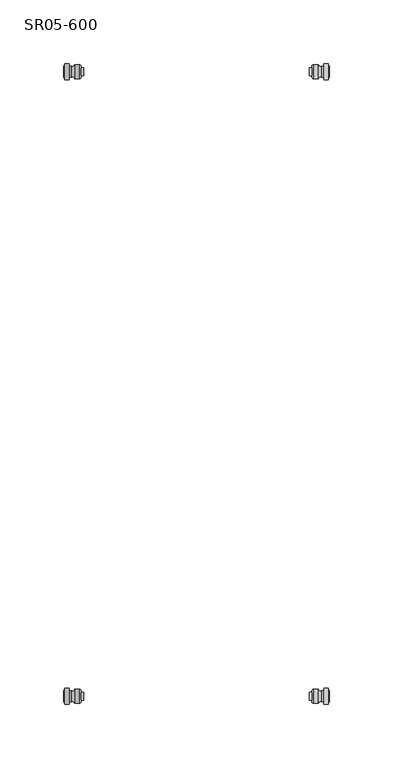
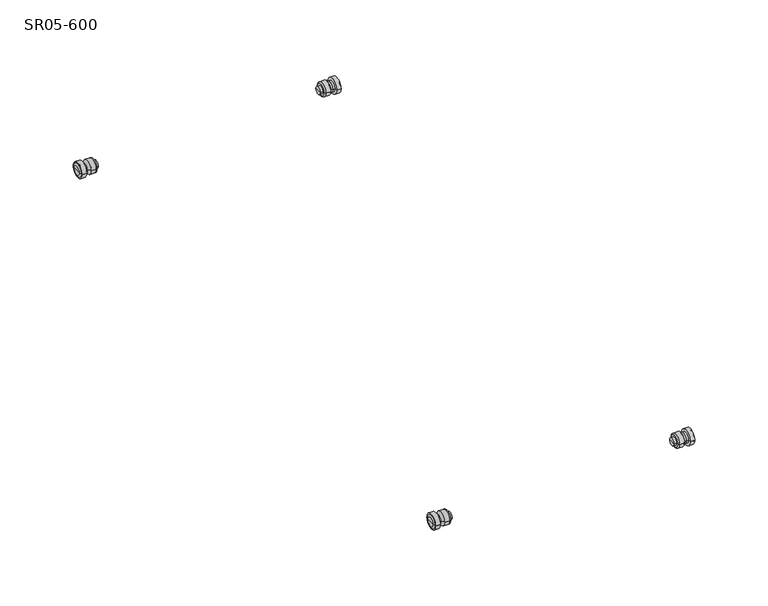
"""IFC4 building model written with IfcOpenShell, lengths in millimetres: proxy geometry, Уголки : SR05-600."""

from ifc_helpers import new_model, si_unit, point, frame, origin, place, context, project, spatial, circle_curve, ellipse_curve, trimmed, source, transform, mapped, element, save
from ifc_brep_helpers import plane_surface, cylinder_surface, revolved_surface, advanced_brep


def sr05_600_a44accf0(model_context):
    return source(origin(), model_context, "Body", "AdvancedBrep", [
        advanced_brep(
        [(104.3500066, -245.0, 24.0), (104.3500066, -248.4999948, 24.0), (104.3500066, -241.5000052, 24.0), (88.7499958, -242.0000014, 24.0), (88.7499958, -247.9999986, 24.0), (88.7499958, -245.0, 24.0), (90.7999933, -242.0000014, 24.0), (90.7999933, -247.9999986, 24.0), (90.7999933, -240.5000058, 24.0), (90.7999933, -249.4999942, 24.0), (91.7999994, -239.5000052, 24.0), (91.7999994, -250.4999948, 24.0), (95.7999994, -239.5000038, 24.0), (95.7999994, -250.4999962, 24.0), (97.9999959, -240.8266569, 24.0), (97.9999959, -249.1733431, 24.0), (100.0, -238.7499985, 24.0), (100.0, -251.2500015, 24.0), (100.0, -249.1733431, 24.0), (100.0, -240.8266569, 24.0), (103.4999996, -238.7499985, 24.0), (103.4999996, -251.2500015, 24.0), (103.4999996, -239.6218414, 24.0), (103.4999996, -250.3781586, 24.0)],
        [
            (0, 1),
            (1, 2, circle_curve(frame((104.3500066, -245.0, 24.0), z_axis=(1.0, 0.0, 0.0), x_axis=(0.0, -1.0, 0.0)), 3.4999948)),
            (2, 0),
            (2, 1, circle_curve(frame((104.3500066, -245.0, 24.0), z_axis=(1.0, 0.0, 0.0), x_axis=(0.0, -1.0, 0.0)), 3.4999948)),
            (3, 4, circle_curve(frame((88.7499958, -245.0, 24.0), z_axis=(-1.0, 0.0, 0.0), x_axis=(0.0, -1.0, 0.0)), 2.9999986)),
            (4, 5),
            (5, 3),
            (4, 3, circle_curve(frame((88.7499958, -245.0, 24.0), z_axis=(-1.0, 0.0, 0.0), x_axis=(0.0, -1.0, 0.0)), 2.9999986)),
            (6, 7, circle_curve(frame((90.7999933, -245.0, 24.0), z_axis=(-1.0, 0.0, 0.0), x_axis=(0.0, -1.0, 0.0)), 2.9999986)),
            (7, 4),
            (3, 6),
            (7, 6, circle_curve(frame((90.7999933, -245.0, 24.0), z_axis=(-1.0, 0.0, 0.0), x_axis=(0.0, -1.0, 0.0)), 2.9999986)),
            (8, 9, circle_curve(frame((90.7999933, -245.0, 24.0), z_axis=(-1.0, 0.0, 0.0), x_axis=(0.0, -1.0, 0.0)), 4.4999942)),
            (9, 7),
            (6, 8),
            (9, 8, circle_curve(frame((90.7999933, -245.0, 24.0), z_axis=(-1.0, 0.0, 0.0), x_axis=(0.0, -1.0, 0.0)), 4.4999942)),
            (10, 11, circle_curve(frame((91.7999994, -245.0, 24.0), z_axis=(-1.0, 0.0, 0.0), x_axis=(0.0, -1.0, 0.0)), 5.4999948)),
            (11, 9, circle_curve(frame((91.7999994, -249.4999948, 24.0), z_axis=(0.0, 0.0, -1.0), x_axis=(0.0, 1.0, 0.0)), 1.0)),
            (8, 10, circle_curve(frame((91.7999994, -240.5000052, 24.0), z_axis=(0.0, 0.0, -1.0), x_axis=(0.0, -1.0, 0.0)), 1.0)),
            (11, 10, circle_curve(frame((91.7999994, -245.0, 24.0), z_axis=(-1.0, 0.0, 0.0), x_axis=(0.0, -1.0, 0.0)), 5.4999948)),
            (12, 13, circle_curve(frame((95.7999994, -245.0, 24.0), z_axis=(-1.0, 0.0, 0.0), x_axis=(0.0, -1.0, 0.0)), 5.4999962)),
            (13, 11),
            (10, 12),
            (13, 12, circle_curve(frame((95.7999994, -245.0, 24.0), z_axis=(-1.0, 0.0, 0.0), x_axis=(0.0, -1.0, 0.0)), 5.4999962)),
            (14, 15, circle_curve(frame((97.9999959, -245.0, 24.0), z_axis=(-1.0, 0.0, 0.0), x_axis=(0.0, -1.0, 0.0)), 4.1733431)),
            (15, 13, circle_curve(frame((97.2999994, -250.4999948, 24.0), z_axis=(0.0, 0.0, 1.0), x_axis=(0.0, 1.0, 0.0)), 1.5)),
            (12, 14, circle_curve(frame((97.2999994, -239.5000052, 24.0), z_axis=(0.0, 0.0, 1.0), x_axis=(0.0, -1.0, 0.0)), 1.5)),
            (15, 14, circle_curve(frame((97.9999959, -245.0, 24.0), z_axis=(-1.0, 0.0, 0.0), x_axis=(0.0, -1.0, 0.0)), 4.1733431)),
            (16, 17, circle_curve(frame((100.0, -245.0, 24.0), z_axis=(-1.0, 0.0, 0.0), x_axis=(0.0, -1.0, 0.0)), 6.2500015)),
            (17, 18),
            (18, 19, circle_curve(frame((100.0, -245.0, 24.0), z_axis=(1.0, 0.0, 0.0), x_axis=(0.0, -1.0, 0.0)), 4.1733431)),
            (19, 16),
            (17, 16, circle_curve(frame((100.0, -245.0, 24.0), z_axis=(-1.0, 0.0, 0.0), x_axis=(0.0, -1.0, 0.0)), 6.2500015)),
            (19, 18, circle_curve(frame((100.0, -245.0, 24.0), z_axis=(1.0, 0.0, 0.0), x_axis=(0.0, -1.0, 0.0)), 4.1733431)),
            (20, 21, circle_curve(frame((103.4999996, -245.0, 24.0), z_axis=(-1.0, 0.0, 0.0), x_axis=(0.0, -1.0, 0.0)), 6.2500015)),
            (21, 17),
            (16, 20),
            (21, 20, circle_curve(frame((103.4999996, -245.0, 24.0), z_axis=(-1.0, 0.0, 0.0), x_axis=(0.0, -1.0, 0.0)), 6.2500015)),
            (22, 23, circle_curve(frame((103.4999996, -245.0, 24.0), z_axis=(-1.0, 0.0, 0.0), x_axis=(0.0, -1.0, 0.0)), 5.3781586)),
            (23, 21),
            (20, 22),
            (23, 22, circle_curve(frame((103.4999996, -245.0, 24.0), z_axis=(-1.0, 0.0, 0.0), x_axis=(0.0, -1.0, 0.0)), 5.3781586)),
            (1, 23, circle_curve(frame((101.8499994, -248.4999948, 24.0), z_axis=(0.0, 0.0, -1.0), x_axis=(0.0, 1.0, 0.0)), 2.5)),
            (22, 2, circle_curve(frame((101.8499994, -241.5000052, 24.0), z_axis=(0.0, 0.0, -1.0), x_axis=(0.0, -1.0, 0.0)), 2.5)),
            (18, 15),
            (14, 19),
        ],
        [
            plane_surface(frame((104.3500066, -245.0, 24.0), z_axis=(1.0, 0.0, 0.0), x_axis=(0.0, -1.0, 0.0))),
            plane_surface(frame((88.7499958, -245.0, 24.0), z_axis=(-1.0, 0.0, 0.0), x_axis=(0.0, -1.0, 0.0))),
            cylinder_surface(frame((-1900.0, -245.0, 24.0), z_axis=(1.0, 0.0, 0.0), x_axis=(0.0, -1.0, 0.0)), 2.9999986),
            plane_surface(frame((90.7999933, -245.0, 24.0), z_axis=(-1.0, 0.0, 0.0), x_axis=(0.0, -1.0, 0.0))),
            revolved_surface(trimmed(ellipse_curve(frame((91.7999994, -249.4999948, 24.0), z_axis=(0.0, 0.0, 1.0), x_axis=(0.0, 1.0, 0.0)), 1.0, 1.0), [point((90.7999994, -249.4999948, 24.0))], [point((91.7999994, -250.4999948, 24.0))], True, "CARTESIAN"), (-1900.0, -245.0, 24.0), (1.0, 0.0, 0.0)),
            cylinder_surface(frame((-1900.0, -245.0, 24.0), z_axis=(1.0, 0.0, 0.0), x_axis=(0.0, -1.0, 0.0)), 5.4999962),
            revolved_surface(trimmed(ellipse_curve(frame((97.2999994, -250.4999948, 24.0), z_axis=(0.0, 0.0, -1.0), x_axis=(0.0, 1.0, 0.0)), 1.5, 1.5), [point((95.7999994, -250.4999962, 24.0))], [point((97.9999959, -249.1733431, 24.0))], True, "CARTESIAN"), (-1900.0, -245.0, 24.0), (1.0, 0.0, 0.0)),
            plane_surface(frame((100.0, -245.0, 24.0), z_axis=(-1.0, 0.0, 0.0), x_axis=(0.0, -1.0, 0.0))),
            cylinder_surface(frame((-1900.0, -245.0, 24.0), z_axis=(1.0, 0.0, 0.0), x_axis=(0.0, -1.0, 0.0)), 6.2500015),
            plane_surface(frame((103.4999996, -245.0, 24.0), z_axis=(1.0, 0.0, 0.0), x_axis=(0.0, -1.0, 0.0))),
            revolved_surface(trimmed(ellipse_curve(frame((101.8499994, -248.4999948, 24.0), z_axis=(0.0, 0.0, 1.0), x_axis=(0.0, 1.0, 0.0)), 2.5, 2.5), [point((103.4999996, -250.3781586, 24.0))], [point((104.3499994, -248.4999948, 24.0))], True, "CARTESIAN"), (-1900.0, -245.0, 24.0), (1.0, 0.0, 0.0)),
            cylinder_surface(frame((-1900.0, -245.0, 24.0), z_axis=(1.0, 0.0, 0.0), x_axis=(0.0, -1.0, 0.0)), 4.1733431),
        ],
        [
            (0, [[1, 2, 3]]),
            (0, [[-3, 4, -1]]),
            (1, [[5, 6, 7]]),
            (1, [[8, -7, -6]]),
            (2, [[9, 10, -5, 11]]),
            (2, [[12, -11, -8, -10]]),
            (3, [[13, 14, -9, 15]]),
            (3, [[16, -15, -12, -14]]),
            (4, [[17, 18, -13, 19]]),
            (4, [[20, -19, -16, -18]]),
            (5, [[21, 22, -17, 23]]),
            (5, [[24, -23, -20, -22]]),
            (6, [[25, 26, -21, 27]]),
            (6, [[28, -27, -24, -26]]),
            (7, [[29, 30, 31, 32]]),
            (7, [[33, -32, 34, -30]]),
            (8, [[35, 36, -29, 37]]),
            (8, [[38, -37, -33, -36]]),
            (9, [[39, 40, -35, 41]]),
            (9, [[42, -41, -38, -40]]),
            (10, [[-2, 43, -39, 44]]),
            (10, [[-4, -44, -42, -43]]),
            (11, [[-31, 45, -25, 46]]),
            (11, [[-34, -46, -28, -45]]),
        ],
    ),
        advanced_brep(
        [(104.3500066, 245.0, 24.0), (104.3500066, 241.5000052, 24.0), (104.3500066, 248.4999948, 24.0), (88.7499958, 247.9999986, 24.0), (88.7499958, 242.0000014, 24.0), (88.7499958, 245.0, 24.0), (90.7999933, 247.9999986, 24.0), (90.7999933, 242.0000014, 24.0), (90.7999933, 249.4999942, 24.0), (90.7999933, 240.5000058, 24.0), (91.7999994, 250.4999948, 24.0), (91.7999994, 239.5000052, 24.0), (95.7999994, 250.4999962, 24.0), (95.7999994, 239.5000038, 24.0), (97.9999959, 249.1733431, 24.0), (97.9999959, 240.8266569, 24.0), (100.0, 251.2500015, 24.0), (100.0, 238.7499985, 24.0), (100.0, 240.8266569, 24.0), (100.0, 249.1733431, 24.0), (103.4999996, 251.2500015, 24.0), (103.4999996, 238.7499985, 24.0), (103.4999996, 250.3781586, 24.0), (103.4999996, 239.6218414, 24.0)],
        [
            (0, 1),
            (1, 2, circle_curve(frame((104.3500066, 245.0, 24.0), z_axis=(1.0, 0.0, 0.0), x_axis=(0.0, -1.0, 0.0)), 3.4999948)),
            (2, 0),
            (2, 1, circle_curve(frame((104.3500066, 245.0, 24.0), z_axis=(1.0, 0.0, 0.0), x_axis=(0.0, -1.0, 0.0)), 3.4999948)),
            (3, 4, circle_curve(frame((88.7499958, 245.0, 24.0), z_axis=(-1.0, 0.0, 0.0), x_axis=(0.0, -1.0, 0.0)), 2.9999986)),
            (4, 5),
            (5, 3),
            (4, 3, circle_curve(frame((88.7499958, 245.0, 24.0), z_axis=(-1.0, 0.0, 0.0), x_axis=(0.0, -1.0, 0.0)), 2.9999986)),
            (6, 7, circle_curve(frame((90.7999933, 245.0, 24.0), z_axis=(-1.0, 0.0, 0.0), x_axis=(0.0, -1.0, 0.0)), 2.9999986)),
            (7, 4),
            (3, 6),
            (7, 6, circle_curve(frame((90.7999933, 245.0, 24.0), z_axis=(-1.0, 0.0, 0.0), x_axis=(0.0, -1.0, 0.0)), 2.9999986)),
            (8, 9, circle_curve(frame((90.7999933, 245.0, 24.0), z_axis=(-1.0, 0.0, 0.0), x_axis=(0.0, -1.0, 0.0)), 4.4999942)),
            (9, 7),
            (6, 8),
            (9, 8, circle_curve(frame((90.7999933, 245.0, 24.0), z_axis=(-1.0, 0.0, 0.0), x_axis=(0.0, -1.0, 0.0)), 4.4999942)),
            (10, 11, circle_curve(frame((91.7999994, 245.0, 24.0), z_axis=(-1.0, 0.0, 0.0), x_axis=(0.0, -1.0, 0.0)), 5.4999948)),
            (11, 9, circle_curve(frame((91.7999994, 240.5000052, 24.0), z_axis=(0.0, 0.0, -1.0), x_axis=(0.0, 1.0, 0.0)), 1.0)),
            (8, 10, circle_curve(frame((91.7999994, 249.4999948, 24.0), z_axis=(0.0, 0.0, -1.0), x_axis=(0.0, -1.0, 0.0)), 1.0)),
            (11, 10, circle_curve(frame((91.7999994, 245.0, 24.0), z_axis=(-1.0, 0.0, 0.0), x_axis=(0.0, -1.0, 0.0)), 5.4999948)),
            (12, 13, circle_curve(frame((95.7999994, 245.0, 24.0), z_axis=(-1.0, 0.0, 0.0), x_axis=(0.0, -1.0, 0.0)), 5.4999962)),
            (13, 11),
            (10, 12),
            (13, 12, circle_curve(frame((95.7999994, 245.0, 24.0), z_axis=(-1.0, 0.0, 0.0), x_axis=(0.0, -1.0, 0.0)), 5.4999962)),
            (14, 15, circle_curve(frame((97.9999959, 245.0, 24.0), z_axis=(-1.0, 0.0, 0.0), x_axis=(0.0, -1.0, 0.0)), 4.1733431)),
            (15, 13, circle_curve(frame((97.2999994, 239.5000052, 24.0), z_axis=(0.0, 0.0, 1.0), x_axis=(0.0, 1.0, 0.0)), 1.5)),
            (12, 14, circle_curve(frame((97.2999994, 250.4999948, 24.0), z_axis=(0.0, 0.0, 1.0), x_axis=(0.0, -1.0, 0.0)), 1.5)),
            (15, 14, circle_curve(frame((97.9999959, 245.0, 24.0), z_axis=(-1.0, 0.0, 0.0), x_axis=(0.0, -1.0, 0.0)), 4.1733431)),
            (16, 17, circle_curve(frame((100.0, 245.0, 24.0), z_axis=(-1.0, 0.0, 0.0), x_axis=(0.0, -1.0, 0.0)), 6.2500015)),
            (17, 18),
            (18, 19, circle_curve(frame((100.0, 245.0, 24.0), z_axis=(1.0, 0.0, 0.0), x_axis=(0.0, -1.0, 0.0)), 4.1733431)),
            (19, 16),
            (17, 16, circle_curve(frame((100.0, 245.0, 24.0), z_axis=(-1.0, 0.0, 0.0), x_axis=(0.0, -1.0, 0.0)), 6.2500015)),
            (19, 18, circle_curve(frame((100.0, 245.0, 24.0), z_axis=(1.0, 0.0, 0.0), x_axis=(0.0, -1.0, 0.0)), 4.1733431)),
            (20, 21, circle_curve(frame((103.4999996, 245.0, 24.0), z_axis=(-1.0, 0.0, 0.0), x_axis=(0.0, -1.0, 0.0)), 6.2500015)),
            (21, 17),
            (16, 20),
            (21, 20, circle_curve(frame((103.4999996, 245.0, 24.0), z_axis=(-1.0, 0.0, 0.0), x_axis=(0.0, -1.0, 0.0)), 6.2500015)),
            (22, 23, circle_curve(frame((103.4999996, 245.0, 24.0), z_axis=(-1.0, 0.0, 0.0), x_axis=(0.0, -1.0, 0.0)), 5.3781586)),
            (23, 21),
            (20, 22),
            (23, 22, circle_curve(frame((103.4999996, 245.0, 24.0), z_axis=(-1.0, 0.0, 0.0), x_axis=(0.0, -1.0, 0.0)), 5.3781586)),
            (1, 23, circle_curve(frame((101.8499994, 241.5000052, 24.0), z_axis=(0.0, 0.0, -1.0), x_axis=(0.0, 1.0, 0.0)), 2.5)),
            (22, 2, circle_curve(frame((101.8499994, 248.4999948, 24.0), z_axis=(0.0, 0.0, -1.0), x_axis=(0.0, -1.0, 0.0)), 2.5)),
            (18, 15),
            (14, 19),
        ],
        [
            plane_surface(frame((104.3500066, 245.0, 24.0), z_axis=(1.0, 0.0, 0.0), x_axis=(0.0, -1.0, 0.0))),
            plane_surface(frame((88.7499958, 245.0, 24.0), z_axis=(-1.0, 0.0, 0.0), x_axis=(0.0, -1.0, 0.0))),
            cylinder_surface(frame((-1900.0, 245.0, 24.0), z_axis=(1.0, 0.0, 0.0), x_axis=(0.0, -1.0, 0.0)), 2.9999986),
            plane_surface(frame((90.7999933, 245.0, 24.0), z_axis=(-1.0, 0.0, 0.0), x_axis=(0.0, -1.0, 0.0))),
            revolved_surface(trimmed(ellipse_curve(frame((91.7999994, 240.5000052, 24.0), z_axis=(0.0, 0.0, 1.0), x_axis=(0.0, 1.0, 0.0)), 1.0, 1.0), [point((90.7999994, 240.5000052, 24.0))], [point((91.7999994, 239.5000052, 24.0))], True, "CARTESIAN"), (-1900.0, 245.0, 24.0), (1.0, 0.0, 0.0)),
            cylinder_surface(frame((-1900.0, 245.0, 24.0), z_axis=(1.0, 0.0, 0.0), x_axis=(0.0, -1.0, 0.0)), 5.4999962),
            revolved_surface(trimmed(ellipse_curve(frame((97.2999994, 239.5000052, 24.0), z_axis=(0.0, 0.0, -1.0), x_axis=(0.0, 1.0, 0.0)), 1.5, 1.5), [point((95.7999994, 239.5000038, 24.0))], [point((97.9999959, 240.8266569, 24.0))], True, "CARTESIAN"), (-1900.0, 245.0, 24.0), (1.0, 0.0, 0.0)),
            plane_surface(frame((100.0, 245.0, 24.0), z_axis=(-1.0, 0.0, 0.0), x_axis=(0.0, -1.0, 0.0))),
            cylinder_surface(frame((-1900.0, 245.0, 24.0), z_axis=(1.0, 0.0, 0.0), x_axis=(0.0, -1.0, 0.0)), 6.2500015),
            plane_surface(frame((103.4999996, 245.0, 24.0), z_axis=(1.0, 0.0, 0.0), x_axis=(0.0, -1.0, 0.0))),
            revolved_surface(trimmed(ellipse_curve(frame((101.8499994, 241.5000052, 24.0), z_axis=(0.0, 0.0, 1.0), x_axis=(0.0, 1.0, 0.0)), 2.5, 2.5), [point((103.4999996, 239.6218414, 24.0))], [point((104.3499994, 241.5000052, 24.0))], True, "CARTESIAN"), (-1900.0, 245.0, 24.0), (1.0, 0.0, 0.0)),
            cylinder_surface(frame((-1900.0, 245.0, 24.0), z_axis=(1.0, 0.0, 0.0), x_axis=(0.0, -1.0, 0.0)), 4.1733431),
        ],
        [
            (0, [[1, 2, 3]]),
            (0, [[-3, 4, -1]]),
            (1, [[5, 6, 7]]),
            (1, [[8, -7, -6]]),
            (2, [[9, 10, -5, 11]]),
            (2, [[12, -11, -8, -10]]),
            (3, [[13, 14, -9, 15]]),
            (3, [[16, -15, -12, -14]]),
            (4, [[17, 18, -13, 19]]),
            (4, [[20, -19, -16, -18]]),
            (5, [[21, 22, -17, 23]]),
            (5, [[24, -23, -20, -22]]),
            (6, [[25, 26, -21, 27]]),
            (6, [[28, -27, -24, -26]]),
            (7, [[29, 30, 31, 32]]),
            (7, [[33, -32, 34, -30]]),
            (8, [[35, 36, -29, 37]]),
            (8, [[38, -37, -33, -36]]),
            (9, [[39, 40, -35, 41]]),
            (9, [[42, -41, -38, -40]]),
            (10, [[-2, 43, -39, 44]]),
            (10, [[-4, -44, -42, -43]]),
            (11, [[-31, 45, -25, 46]]),
            (11, [[-34, -46, -28, -45]]),
        ],
    ),
        advanced_brep(
        [(-104.3500066, 245.0, 24.0), (-104.3500066, 248.4999948, 24.0), (-104.3500066, 241.5000052, 24.0), (-88.7499958, 242.0000014, 24.0), (-88.7499958, 247.9999986, 24.0), (-88.7499958, 245.0, 24.0), (-90.7999933, 242.0000014, 24.0), (-90.7999933, 247.9999986, 24.0), (-90.7999933, 240.5000058, 24.0), (-90.7999933, 249.4999942, 24.0), (-91.7999994, 239.5000052, 24.0), (-91.7999994, 250.4999948, 24.0), (-95.7999994, 239.5000038, 24.0), (-95.7999994, 250.4999962, 24.0), (-97.9999959, 240.8266569, 24.0), (-97.9999959, 249.1733431, 24.0), (-100.0, 238.7499985, 24.0), (-100.0, 251.2500015, 24.0), (-100.0, 249.1733431, 24.0), (-100.0, 240.8266569, 24.0), (-103.4999996, 238.7499985, 24.0), (-103.4999996, 251.2500015, 24.0), (-103.4999996, 239.6218414, 24.0), (-103.4999996, 250.3781586, 24.0)],
        [
            (0, 1),
            (1, 2, circle_curve(frame((-104.3500066, 245.0, 24.0), z_axis=(-1.0, 0.0, 0.0), x_axis=(0.0, 1.0, 0.0)), 3.4999948)),
            (2, 0),
            (2, 1, circle_curve(frame((-104.3500066, 245.0, 24.0), z_axis=(-1.0, 0.0, 0.0), x_axis=(0.0, 1.0, 0.0)), 3.4999948)),
            (3, 4, circle_curve(frame((-88.7499958, 245.0, 24.0), z_axis=(1.0, 0.0, 0.0), x_axis=(0.0, 1.0, 0.0)), 2.9999986)),
            (4, 5),
            (5, 3),
            (4, 3, circle_curve(frame((-88.7499958, 245.0, 24.0), z_axis=(1.0, 0.0, 0.0), x_axis=(0.0, 1.0, 0.0)), 2.9999986)),
            (6, 7, circle_curve(frame((-90.7999933, 245.0, 24.0), z_axis=(1.0, 0.0, 0.0), x_axis=(0.0, 1.0, 0.0)), 2.9999986)),
            (7, 4),
            (3, 6),
            (7, 6, circle_curve(frame((-90.7999933, 245.0, 24.0), z_axis=(1.0, 0.0, 0.0), x_axis=(0.0, 1.0, 0.0)), 2.9999986)),
            (8, 9, circle_curve(frame((-90.7999933, 245.0, 24.0), z_axis=(1.0, 0.0, 0.0), x_axis=(0.0, 1.0, 0.0)), 4.4999942)),
            (9, 7),
            (6, 8),
            (9, 8, circle_curve(frame((-90.7999933, 245.0, 24.0), z_axis=(1.0, 0.0, 0.0), x_axis=(0.0, 1.0, 0.0)), 4.4999942)),
            (10, 11, circle_curve(frame((-91.7999994, 245.0, 24.0), z_axis=(1.0, 0.0, 0.0), x_axis=(0.0, 1.0, 0.0)), 5.4999948)),
            (11, 9, circle_curve(frame((-91.7999994, 249.4999948, 24.0), z_axis=(0.0, 0.0, -1.0), x_axis=(0.0, -1.0, 0.0)), 1.0)),
            (8, 10, circle_curve(frame((-91.7999994, 240.5000052, 24.0), z_axis=(0.0, 0.0, -1.0), x_axis=(0.0, 1.0, 0.0)), 1.0)),
            (11, 10, circle_curve(frame((-91.7999994, 245.0, 24.0), z_axis=(1.0, 0.0, 0.0), x_axis=(0.0, 1.0, 0.0)), 5.4999948)),
            (12, 13, circle_curve(frame((-95.7999994, 245.0, 24.0), z_axis=(1.0, 0.0, 0.0), x_axis=(0.0, 1.0, 0.0)), 5.4999962)),
            (13, 11),
            (10, 12),
            (13, 12, circle_curve(frame((-95.7999994, 245.0, 24.0), z_axis=(1.0, 0.0, 0.0), x_axis=(0.0, 1.0, 0.0)), 5.4999962)),
            (14, 15, circle_curve(frame((-97.9999959, 245.0, 24.0), z_axis=(1.0, 0.0, 0.0), x_axis=(0.0, 1.0, 0.0)), 4.1733431)),
            (15, 13, circle_curve(frame((-97.2999994, 250.4999948, 24.0), z_axis=(0.0, 0.0, 1.0), x_axis=(0.0, -1.0, 0.0)), 1.5)),
            (12, 14, circle_curve(frame((-97.2999994, 239.5000052, 24.0), z_axis=(0.0, 0.0, 1.0), x_axis=(0.0, 1.0, 0.0)), 1.5)),
            (15, 14, circle_curve(frame((-97.9999959, 245.0, 24.0), z_axis=(1.0, 0.0, 0.0), x_axis=(0.0, 1.0, 0.0)), 4.1733431)),
            (16, 17, circle_curve(frame((-100.0, 245.0, 24.0), z_axis=(1.0, 0.0, 0.0), x_axis=(0.0, 1.0, 0.0)), 6.2500015)),
            (17, 18),
            (18, 19, circle_curve(frame((-100.0, 245.0, 24.0), z_axis=(-1.0, 0.0, 0.0), x_axis=(0.0, 1.0, 0.0)), 4.1733431)),
            (19, 16),
            (17, 16, circle_curve(frame((-100.0, 245.0, 24.0), z_axis=(1.0, 0.0, 0.0), x_axis=(0.0, 1.0, 0.0)), 6.2500015)),
            (19, 18, circle_curve(frame((-100.0, 245.0, 24.0), z_axis=(-1.0, 0.0, 0.0), x_axis=(0.0, 1.0, 0.0)), 4.1733431)),
            (20, 21, circle_curve(frame((-103.4999996, 245.0, 24.0), z_axis=(1.0, 0.0, 0.0), x_axis=(0.0, 1.0, 0.0)), 6.2500015)),
            (21, 17),
            (16, 20),
            (21, 20, circle_curve(frame((-103.4999996, 245.0, 24.0), z_axis=(1.0, 0.0, 0.0), x_axis=(0.0, 1.0, 0.0)), 6.2500015)),
            (22, 23, circle_curve(frame((-103.4999996, 245.0, 24.0), z_axis=(1.0, 0.0, 0.0), x_axis=(0.0, 1.0, 0.0)), 5.3781586)),
            (23, 21),
            (20, 22),
            (23, 22, circle_curve(frame((-103.4999996, 245.0, 24.0), z_axis=(1.0, 0.0, 0.0), x_axis=(0.0, 1.0, 0.0)), 5.3781586)),
            (1, 23, circle_curve(frame((-101.8499994, 248.4999948, 24.0), z_axis=(0.0, 0.0, -1.0), x_axis=(0.0, -1.0, 0.0)), 2.5)),
            (22, 2, circle_curve(frame((-101.8499994, 241.5000052, 24.0), z_axis=(0.0, 0.0, -1.0), x_axis=(0.0, 1.0, 0.0)), 2.5)),
            (18, 15),
            (14, 19),
        ],
        [
            plane_surface(frame((-104.3500066, 245.0, 24.0), z_axis=(-1.0, 0.0, 0.0), x_axis=(0.0, 1.0, 0.0))),
            plane_surface(frame((-88.7499958, 245.0, 24.0), z_axis=(1.0, 0.0, 0.0), x_axis=(0.0, 1.0, 0.0))),
            cylinder_surface(frame((1900.0, 245.0, 24.0), z_axis=(-1.0, 0.0, 0.0), x_axis=(0.0, 1.0, 0.0)), 2.9999986),
            plane_surface(frame((-90.7999933, 245.0, 24.0), z_axis=(1.0, 0.0, 0.0), x_axis=(0.0, 1.0, 0.0))),
            revolved_surface(trimmed(ellipse_curve(frame((-91.7999994, 249.4999948, 24.0), z_axis=(0.0, 0.0, 1.0), x_axis=(0.0, -1.0, 0.0)), 1.0, 1.0), [point((-90.7999994, 249.4999948, 24.0))], [point((-91.7999994, 250.4999948, 24.0))], True, "CARTESIAN"), (1900.0, 245.0, 24.0), (-1.0, 0.0, 0.0)),
            cylinder_surface(frame((1900.0, 245.0, 24.0), z_axis=(-1.0, 0.0, 0.0), x_axis=(0.0, 1.0, 0.0)), 5.4999962),
            revolved_surface(trimmed(ellipse_curve(frame((-97.2999994, 250.4999948, 24.0), z_axis=(0.0, 0.0, -1.0), x_axis=(0.0, -1.0, 0.0)), 1.5, 1.5), [point((-95.7999994, 250.4999962, 24.0))], [point((-97.9999959, 249.1733431, 24.0))], True, "CARTESIAN"), (1900.0, 245.0, 24.0), (-1.0, 0.0, 0.0)),
            plane_surface(frame((-100.0, 245.0, 24.0), z_axis=(1.0, 0.0, 0.0), x_axis=(0.0, 1.0, 0.0))),
            cylinder_surface(frame((1900.0, 245.0, 24.0), z_axis=(-1.0, 0.0, 0.0), x_axis=(0.0, 1.0, 0.0)), 6.2500015),
            plane_surface(frame((-103.4999996, 245.0, 24.0), z_axis=(-1.0, 0.0, 0.0), x_axis=(0.0, 1.0, 0.0))),
            revolved_surface(trimmed(ellipse_curve(frame((-101.8499994, 248.4999948, 24.0), z_axis=(0.0, 0.0, 1.0), x_axis=(0.0, -1.0, 0.0)), 2.5, 2.5), [point((-103.4999996, 250.3781586, 24.0))], [point((-104.3499994, 248.4999948, 24.0))], True, "CARTESIAN"), (1900.0, 245.0, 24.0), (-1.0, 0.0, 0.0)),
            cylinder_surface(frame((1900.0, 245.0, 24.0), z_axis=(-1.0, 0.0, 0.0), x_axis=(0.0, 1.0, 0.0)), 4.1733431),
        ],
        [
            (0, [[1, 2, 3]]),
            (0, [[-3, 4, -1]]),
            (1, [[5, 6, 7]]),
            (1, [[8, -7, -6]]),
            (2, [[9, 10, -5, 11]]),
            (2, [[12, -11, -8, -10]]),
            (3, [[13, 14, -9, 15]]),
            (3, [[16, -15, -12, -14]]),
            (4, [[17, 18, -13, 19]]),
            (4, [[20, -19, -16, -18]]),
            (5, [[21, 22, -17, 23]]),
            (5, [[24, -23, -20, -22]]),
            (6, [[25, 26, -21, 27]]),
            (6, [[28, -27, -24, -26]]),
            (7, [[29, 30, 31, 32]]),
            (7, [[33, -32, 34, -30]]),
            (8, [[35, 36, -29, 37]]),
            (8, [[38, -37, -33, -36]]),
            (9, [[39, 40, -35, 41]]),
            (9, [[42, -41, -38, -40]]),
            (10, [[-2, 43, -39, 44]]),
            (10, [[-4, -44, -42, -43]]),
            (11, [[-31, 45, -25, 46]]),
            (11, [[-34, -46, -28, -45]]),
        ],
    ),
        advanced_brep(
        [(-104.3500066, -245.0, 24.0), (-104.3500066, -241.5000052, 24.0), (-104.3500066, -248.4999948, 24.0), (-88.7499958, -247.9999986, 24.0), (-88.7499958, -242.0000014, 24.0), (-88.7499958, -245.0, 24.0), (-90.7999933, -247.9999986, 24.0), (-90.7999933, -242.0000014, 24.0), (-90.7999933, -249.4999942, 24.0), (-90.7999933, -240.5000058, 24.0), (-91.7999994, -250.4999948, 24.0), (-91.7999994, -239.5000052, 24.0), (-95.7999994, -250.4999962, 24.0), (-95.7999994, -239.5000038, 24.0), (-97.9999959, -249.1733431, 24.0), (-97.9999959, -240.8266569, 24.0), (-100.0, -251.2500015, 24.0), (-100.0, -238.7499985, 24.0), (-100.0, -240.8266569, 24.0), (-100.0, -249.1733431, 24.0), (-103.4999996, -251.2500015, 24.0), (-103.4999996, -238.7499985, 24.0), (-103.4999996, -250.3781586, 24.0), (-103.4999996, -239.6218414, 24.0)],
        [
            (0, 1),
            (1, 2, circle_curve(frame((-104.3500066, -245.0, 24.0), z_axis=(-1.0, 0.0, 0.0), x_axis=(0.0, 1.0000000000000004, 0.0)), 3.4999948)),
            (2, 0),
            (2, 1, circle_curve(frame((-104.3500066, -245.0, 24.0), z_axis=(-1.0, 0.0, 0.0), x_axis=(0.0, 1.0000000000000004, 0.0)), 3.4999948)),
            (3, 4, circle_curve(frame((-88.7499958, -245.0, 24.0), z_axis=(1.0, 0.0, 0.0), x_axis=(0.0, 1.0000000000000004, 0.0)), 2.9999986)),
            (4, 5),
            (5, 3),
            (4, 3, circle_curve(frame((-88.7499958, -245.0, 24.0), z_axis=(1.0, 0.0, 0.0), x_axis=(0.0, 1.0000000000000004, 0.0)), 2.9999986)),
            (6, 7, circle_curve(frame((-90.7999933, -245.0, 24.0), z_axis=(1.0, 0.0, 0.0), x_axis=(0.0, 1.0000000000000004, 0.0)), 2.9999986)),
            (7, 4),
            (3, 6),
            (7, 6, circle_curve(frame((-90.7999933, -245.0, 24.0), z_axis=(1.0, 0.0, 0.0), x_axis=(0.0, 1.0000000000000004, 0.0)), 2.9999986)),
            (8, 9, circle_curve(frame((-90.7999933, -245.0, 24.0), z_axis=(1.0, 0.0, 0.0), x_axis=(0.0, 1.0000000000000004, 0.0)), 4.4999942)),
            (9, 7),
            (6, 8),
            (9, 8, circle_curve(frame((-90.7999933, -245.0, 24.0), z_axis=(1.0, 0.0, 0.0), x_axis=(0.0, 1.0000000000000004, 0.0)), 4.4999942)),
            (10, 11, circle_curve(frame((-91.7999994, -245.0, 24.0), z_axis=(1.0, 0.0, 0.0), x_axis=(0.0, 1.0000000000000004, 0.0)), 5.4999948)),
            (11, 9, circle_curve(frame((-91.7999994, -240.5000052, 24.0), z_axis=(0.0, 0.0, -1.0), x_axis=(0.0, -1.0000000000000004, 0.0)), 1.0)),
            (8, 10, circle_curve(frame((-91.7999994, -249.4999948, 24.0), z_axis=(0.0, 0.0, -1.0), x_axis=(0.0, 1.0000000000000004, 0.0)), 1.0)),
            (11, 10, circle_curve(frame((-91.7999994, -245.0, 24.0), z_axis=(1.0, 0.0, 0.0), x_axis=(0.0, 1.0000000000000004, 0.0)), 5.4999948)),
            (12, 13, circle_curve(frame((-95.7999994, -245.0, 24.0), z_axis=(1.0, 0.0, 0.0), x_axis=(0.0, 1.0000000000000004, 0.0)), 5.4999962)),
            (13, 11),
            (10, 12),
            (13, 12, circle_curve(frame((-95.7999994, -245.0, 24.0), z_axis=(1.0, 0.0, 0.0), x_axis=(0.0, 1.0000000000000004, 0.0)), 5.4999962)),
            (14, 15, circle_curve(frame((-97.9999959, -245.0, 24.0), z_axis=(1.0, 0.0, 0.0), x_axis=(0.0, 1.0000000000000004, 0.0)), 4.1733431)),
            (15, 13, circle_curve(frame((-97.2999994, -239.5000052, 24.0), z_axis=(0.0, 0.0, 1.0), x_axis=(0.0, -1.0000000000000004, 0.0)), 1.5)),
            (12, 14, circle_curve(frame((-97.2999994, -250.4999948, 24.0), z_axis=(0.0, 0.0, 1.0), x_axis=(0.0, 1.0000000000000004, 0.0)), 1.5)),
            (15, 14, circle_curve(frame((-97.9999959, -245.0, 24.0), z_axis=(1.0, 0.0, 0.0), x_axis=(0.0, 1.0000000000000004, 0.0)), 4.1733431)),
            (16, 17, circle_curve(frame((-100.0, -245.0, 24.0), z_axis=(1.0, 0.0, 0.0), x_axis=(0.0, 1.0000000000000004, 0.0)), 6.2500015)),
            (17, 18),
            (18, 19, circle_curve(frame((-100.0, -245.0, 24.0), z_axis=(-1.0, 0.0, 0.0), x_axis=(0.0, 1.0000000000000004, 0.0)), 4.1733431)),
            (19, 16),
            (17, 16, circle_curve(frame((-100.0, -245.0, 24.0), z_axis=(1.0, 0.0, 0.0), x_axis=(0.0, 1.0000000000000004, 0.0)), 6.2500015)),
            (19, 18, circle_curve(frame((-100.0, -245.0, 24.0), z_axis=(-1.0, 0.0, 0.0), x_axis=(0.0, 1.0000000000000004, 0.0)), 4.1733431)),
            (20, 21, circle_curve(frame((-103.4999996, -245.0, 24.0), z_axis=(1.0, 0.0, 0.0), x_axis=(0.0, 1.0000000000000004, 0.0)), 6.2500015)),
            (21, 17),
            (16, 20),
            (21, 20, circle_curve(frame((-103.4999996, -245.0, 24.0), z_axis=(1.0, 0.0, 0.0), x_axis=(0.0, 1.0000000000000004, 0.0)), 6.2500015)),
            (22, 23, circle_curve(frame((-103.4999996, -245.0, 24.0), z_axis=(1.0, 0.0, 0.0), x_axis=(0.0, 1.0000000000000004, 0.0)), 5.3781586)),
            (23, 21),
            (20, 22),
            (23, 22, circle_curve(frame((-103.4999996, -245.0, 24.0), z_axis=(1.0, 0.0, 0.0), x_axis=(0.0, 1.0000000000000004, 0.0)), 5.3781586)),
            (1, 23, circle_curve(frame((-101.8499994, -241.5000052, 24.0), z_axis=(0.0, 0.0, -1.0), x_axis=(0.0, -1.0000000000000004, 0.0)), 2.5)),
            (22, 2, circle_curve(frame((-101.8499994, -248.4999948, 24.0), z_axis=(0.0, 0.0, -1.0), x_axis=(0.0, 1.0000000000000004, 0.0)), 2.5)),
            (18, 15),
            (14, 19),
        ],
        [
            plane_surface(frame((-104.3500066, -245.0, 24.0), z_axis=(-1.0, 0.0, 0.0), x_axis=(0.0, 1.0, 0.0))),
            plane_surface(frame((-88.7499958, -245.0, 24.0), z_axis=(1.0, 0.0, 0.0), x_axis=(0.0, 1.0, 0.0))),
            cylinder_surface(frame((1900.0, -245.0, 24.0), z_axis=(-1.0000000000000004, 0.0, 0.0), x_axis=(0.0, 1.0000000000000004, 0.0)), 2.9999986),
            plane_surface(frame((-90.7999933, -245.0, 24.0), z_axis=(1.0, 0.0, 0.0), x_axis=(0.0, 1.0, 0.0))),
            revolved_surface(trimmed(ellipse_curve(frame((-91.7999994, -240.5000052, 24.0), z_axis=(0.0, 0.0, 1.0), x_axis=(0.0, -1.0000000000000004, 0.0)), 1.0, 1.0), [point((-90.7999994, -240.5000052, 24.0))], [point((-91.7999994, -239.5000052, 24.0))], True, "CARTESIAN"), (1900.0, -245.0, 24.0), (-1.0000000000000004, 0.0, 0.0)),
            cylinder_surface(frame((1900.0, -245.0, 24.0), z_axis=(-1.0000000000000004, 0.0, 0.0), x_axis=(0.0, 1.0000000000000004, 0.0)), 5.4999962),
            revolved_surface(trimmed(ellipse_curve(frame((-97.2999994, -239.5000052, 24.0), z_axis=(0.0, 0.0, -1.0), x_axis=(0.0, -1.0000000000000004, 0.0)), 1.5, 1.5), [point((-95.7999994, -239.5000038, 24.0))], [point((-97.9999959, -240.8266569, 24.0))], True, "CARTESIAN"), (1900.0, -245.0, 24.0), (-1.0000000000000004, 0.0, 0.0)),
            plane_surface(frame((-100.0, -245.0, 24.0), z_axis=(1.0, 0.0, 0.0), x_axis=(0.0, 1.0, 0.0))),
            cylinder_surface(frame((1900.0, -245.0, 24.0), z_axis=(-1.0000000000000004, 0.0, 0.0), x_axis=(0.0, 1.0000000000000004, 0.0)), 6.2500015),
            plane_surface(frame((-103.4999996, -245.0, 24.0), z_axis=(-1.0, 0.0, 0.0), x_axis=(0.0, 1.0, 0.0))),
            revolved_surface(trimmed(ellipse_curve(frame((-101.8499994, -241.5000052, 24.0), z_axis=(0.0, 0.0, 1.0), x_axis=(0.0, -1.0000000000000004, 0.0)), 2.5, 2.5), [point((-103.4999996, -239.6218414, 24.0))], [point((-104.3499994, -241.5000052, 24.0))], True, "CARTESIAN"), (1900.0, -245.0, 24.0), (-1.0000000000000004, 0.0, 0.0)),
            cylinder_surface(frame((1900.0, -245.0, 24.0), z_axis=(-1.0000000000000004, 0.0, 0.0), x_axis=(0.0, 1.0000000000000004, 0.0)), 4.1733431),
        ],
        [
            (0, [[1, 2, 3]]),
            (0, [[-3, 4, -1]]),
            (1, [[5, 6, 7]]),
            (1, [[8, -7, -6]]),
            (2, [[9, 10, -5, 11]]),
            (2, [[12, -11, -8, -10]]),
            (3, [[13, 14, -9, 15]]),
            (3, [[16, -15, -12, -14]]),
            (4, [[17, 18, -13, 19]]),
            (4, [[20, -19, -16, -18]]),
            (5, [[21, 22, -17, 23]]),
            (5, [[24, -23, -20, -22]]),
            (6, [[25, 26, -21, 27]]),
            (6, [[28, -27, -24, -26]]),
            (7, [[29, 30, 31, 32]]),
            (7, [[33, -32, 34, -30]]),
            (8, [[35, 36, -29, 37]]),
            (8, [[38, -37, -33, -36]]),
            (9, [[39, 40, -35, 41]]),
            (9, [[42, -41, -38, -40]]),
            (10, [[-2, 43, -39, 44]]),
            (10, [[-4, -44, -42, -43]]),
            (11, [[-31, 45, -25, 46]]),
            (11, [[-34, -46, -28, -45]]),
        ],
    ),
    ])


if __name__ == "__main__":
    model = new_model("IFC4")
    model_context = context("Model", 3, world=origin())
    ifc_project = project(units=[si_unit("LENGTHUNIT", "METRE", prefix="MILLI")], contexts=[model_context])
    site = spatial("IfcSite", under=ifc_project)
    building = spatial("IfcBuilding", under=site)
    placement = place(None, origin())
    sr05_600_shape = sr05_600_a44accf0(model_context)
    element("IfcBuildingElementProxy", 1, Name="Уголки : SR05-600", ObjectType="Уголки : SR05-600", at=placement, inside=building, context=model_context, shape_type="MappedRepresentation", body=[
        mapped(sr05_600_shape, transform((0.0, 0.0, 0.0), x_axis=(1.0, 0.0, 0.0), y_axis=(0.0, 1.0, 0.0), z_axis=(0.0, 0.0, 1.0))),
    ])
    save(model, "model.ifc")
